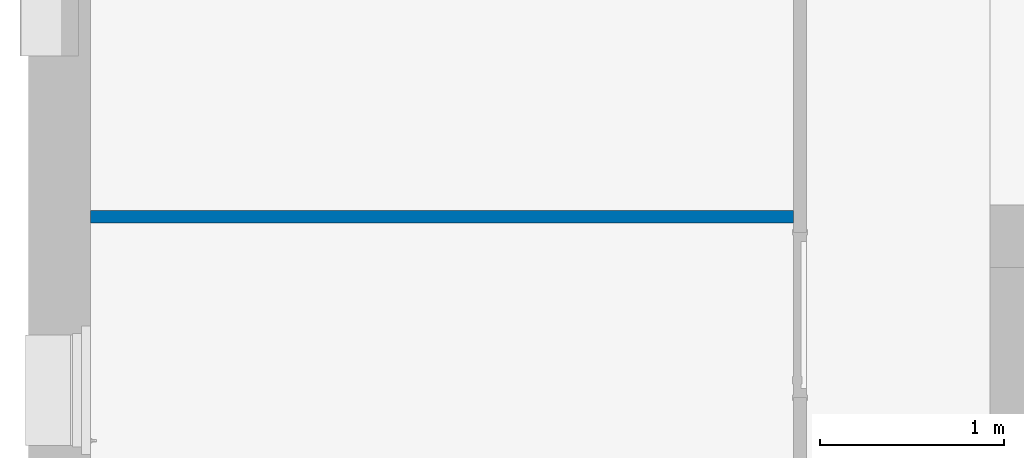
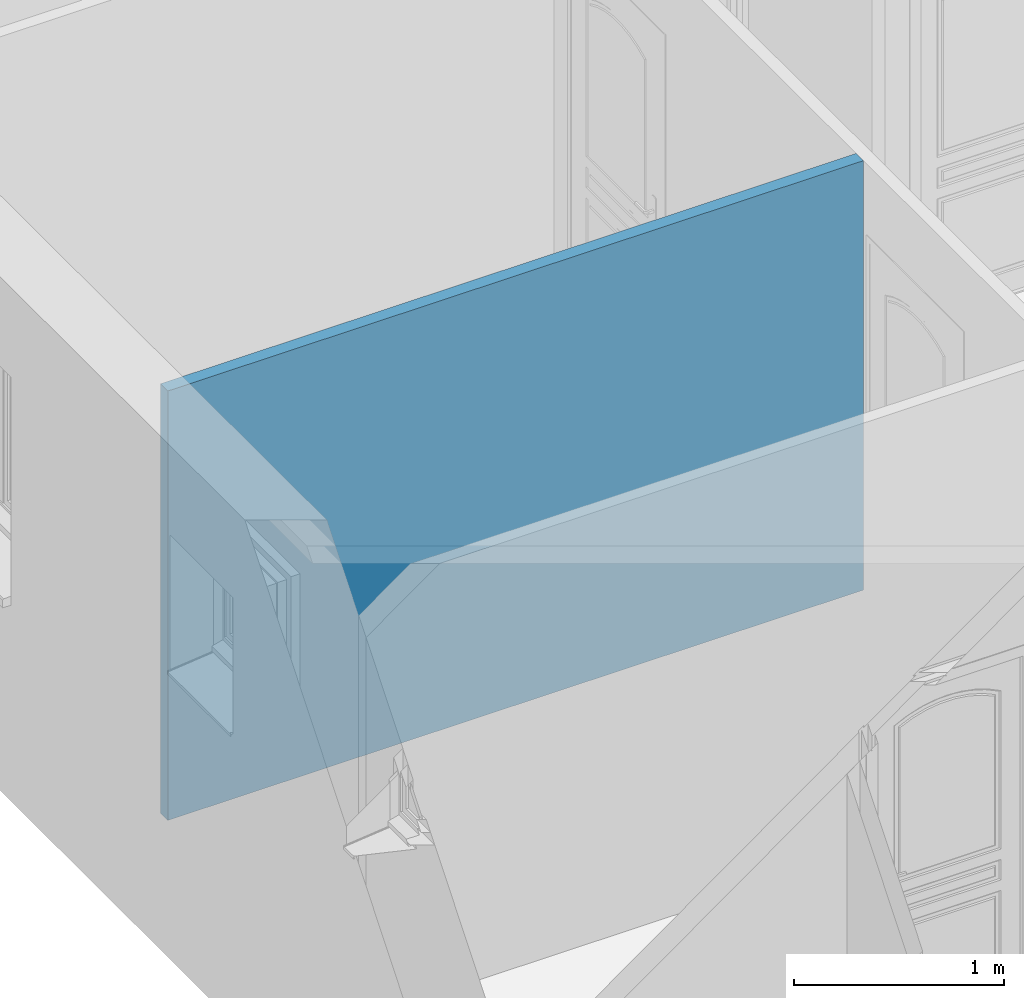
# One storey, part 9 of 23: 1 wall.
"""IFC2X3 building model written with IfcOpenShell, lengths in metres."""

import ifcopenshell
import ifcopenshell.guid

model = None  # the IFC model being written
_history = None  # IfcOwnerHistory: only IFC2X3 demands one
_inside = {}  # id of a spatial element -> (the spatial element, [elements in it])
_under = {}  # id of a project, library or spatial element -> (it, [spatial elements below it])
_declared = {}  # id of a project -> (the project, [libraries it declares])
_typed = {}  # id of a type object -> (the type object, [elements of that type])
_made_of = {}  # id of a material, layer set ... -> (it, [elements and type objects made of it])


def new_model(schema):
    """Start an empty IFC model of exactly this schema.

    Asked for "IFC4X3", IfcOpenShell would pick the latest addendum, in which some entities
    have other attributes; the version numbers below select the first issue.
    IFC2X3 requires an IfcOwnerHistory on every rooted entity: one is made here for all.
    """
    global model, _history
    if schema == "IFC4X3":
        model = ifcopenshell.file(schema_version=(4, 3, 0, 0))
    else:
        model = ifcopenshell.file(schema=schema)
    _inside.clear()
    _under.clear()
    _declared.clear()
    _typed.clear()
    _made_of.clear()
    _history = None
    if model.schema == "IFC2X3":
        org = make("IfcOrganization", Name="unknown")
        user = make(
            "IfcPersonAndOrganization",
            ThePerson=make("IfcPerson", FamilyName="unknown"),
            TheOrganization=org,
        )
        app = make(
            "IfcApplication",
            ApplicationDeveloper=org,
            Version="unknown",
            ApplicationFullName="unknown",
            ApplicationIdentifier="unknown",
        )
        _history = make(
            "IfcOwnerHistory",
            OwningUser=user,
            OwningApplication=app,
            ChangeAction="ADDED",
            CreationDate=0,
        )
    return model


def make(cls, **values):
    """One entity of the class cls with the attributes given. An attribute that is None is left unset."""
    return model.create_entity(
        cls, **{name: value for name, value in values.items() if value is not None}
    )


def entity(cls, *values):
    """Any entity or typed value of the class cls, its attributes in the order of the schema. None: left unset."""
    e = model.create_entity(cls)
    for i, value in enumerate(values):
        if value is not None:
            e[i] = value
    return e


def rooted(cls, **values):
    """An entity with a GlobalId (a new one), such as an element, a storey or a relation."""
    return make(cls, GlobalId=ifcopenshell.guid.new(), OwnerHistory=_history, **values)


def si_unit(unit_type, name, prefix=None):
    """IfcSIUnit, for example si_unit("LENGTHUNIT", "METRE", prefix="MILLI")."""
    return make("IfcSIUnit", UnitType=unit_type, Prefix=prefix, Name=name)


def converted_unit(unit_type, name, factor, base, dimensions=None, offset=None):
    """IfcConversionBasedUnit, such as the inch: factor (a typed value) times the base unit."""
    return make(
        "IfcConversionBasedUnit"
        if offset is None
        else "IfcConversionBasedUnitWithOffset",
        ConversionOffset=offset,
        Dimensions=None
        if dimensions is None
        else entity("IfcDimensionalExponents", *dimensions),
        UnitType=unit_type,
        Name=name,
        ConversionFactor=make(
            "IfcMeasureWithUnit", ValueComponent=factor, UnitComponent=base
        ),
    )


def derived_unit(unit_type, elements):
    """IfcDerivedUnit: a product of units, each with its exponent."""
    return make(
        "IfcDerivedUnit",
        Elements=[
            make("IfcDerivedUnitElement", Unit=unit, Exponent=power)
            for unit, power in elements
        ],
        UnitType=unit_type,
    )


def assignment(units):
    """IfcUnitAssignment: the units of a project."""
    return None if units is None else make("IfcUnitAssignment", Units=units)


def point(xyz):
    """IfcCartesianPoint."""
    return None if xyz is None else make("IfcCartesianPoint", Coordinates=xyz)


def direction(xyz):
    """IfcDirection."""
    return None if xyz is None else make("IfcDirection", DirectionRatios=xyz)


def frame(location, z_axis=None, x_axis=None):
    """IfcAxis2Placement3D, a coordinate frame: its origin and axes. An axis left out is left unset."""
    return make(
        "IfcAxis2Placement3D",
        Location=point(location),
        Axis=direction(z_axis),
        RefDirection=direction(x_axis),
    )


def frame_2d(location, x_axis=None):
    """IfcAxis2Placement2D, a coordinate frame in the plane: its origin and x axis."""
    return make(
        "IfcAxis2Placement2D", Location=point(location), RefDirection=direction(x_axis)
    )


def origin():
    """The frame at (0, 0, 0) with its axes left unset."""
    return frame((0.0, 0.0, 0.0))


def place(relative_to, where):
    """IfcLocalPlacement: puts the frame where relative to a parent placement (None: the world)."""
    return make(
        "IfcLocalPlacement", PlacementRelTo=relative_to, RelativePlacement=where
    )


def context(
    kind, dimensions, precision=None, world=None, true_north=None, identifier=None
):
    """IfcGeometricRepresentationContext, for example the 3D "Model" context."""
    return make(
        "IfcGeometricRepresentationContext",
        ContextIdentifier=identifier,
        ContextType=kind,
        CoordinateSpaceDimension=dimensions,
        Precision=precision,
        WorldCoordinateSystem=world,
        TrueNorth=true_north,
    )


def subcontext(parent, identifier, kind, view, scale=None):
    """IfcGeometricRepresentationSubContext, for example "Body" below "Model"."""
    return make(
        "IfcGeometricRepresentationSubContext",
        ContextIdentifier=identifier,
        ContextType=kind,
        ParentContext=parent,
        TargetScale=scale,
        TargetView=view,
    )


def project(units=None, contexts=None):
    """IfcProject with its units and contexts."""
    return rooted(
        "IfcProject",
        Name="project",
        RepresentationContexts=contexts,
        UnitsInContext=assignment(units),
    )


def spatial(cls, under=None, at=None, **own):
    """A site, building, storey or space (cls), placed at a placement, below another one or the project."""
    s = rooted(cls, ObjectPlacement=at, **own)
    if under is not None:
        _under.setdefault(under.id(), (under, []))[1].append(s)
    return s


def profile(cls, at=None, kind="AREA", **sizes):
    """A parametric profile (cls). Its sizes go by their IFC names, for example OverallWidth=200.0."""
    return make(cls, ProfileType=kind, Position=at, **sizes)


def rectangle(**sizes):
    """IfcRectangleProfileDef."""
    return profile("IfcRectangleProfileDef", **sizes)


def extrude(swept, where, along, depth):
    """IfcExtrudedAreaSolid: the profile swept, set in the frame where, extruded along a direction by depth."""
    return make(
        "IfcExtrudedAreaSolid",
        SweptArea=swept,
        Position=where,
        ExtrudedDirection=direction(along),
        Depth=depth,
    )


def shape(context_of_items, identifier, shape_type, items):
    """IfcShapeRepresentation: the items that make up one representation, for example the "Body"."""
    return make(
        "IfcShapeRepresentation",
        ContextOfItems=context_of_items,
        RepresentationIdentifier=identifier,
        RepresentationType=shape_type,
        Items=items,
    )


def material(Name=None, Category=None):
    """IfcMaterial."""
    return make("IfcMaterial", Name=Name, Category=Category)


def layer(
    of_material, thickness, ventilated=None, Name=None, Category=None, Priority=None
):
    """IfcMaterialLayer: one layer of a wall or slab, of a material (None: an air gap)."""
    return make(
        "IfcMaterialLayer",
        Material=of_material,
        LayerThickness=thickness,
        IsVentilated=ventilated,
        Name=Name,
        Category=Category,
        Priority=Priority,
    )


def layer_set(layers, Name=None):
    """IfcMaterialLayerSet."""
    return make("IfcMaterialLayerSet", MaterialLayers=layers, LayerSetName=Name)


def layer_usage(for_layer_set, set_direction, sense, offset, extent=None):
    """IfcMaterialLayerSetUsage: how a layer set lies in its element."""
    return make(
        "IfcMaterialLayerSetUsage",
        ForLayerSet=for_layer_set,
        LayerSetDirection=set_direction,
        DirectionSense=sense,
        OffsetFromReferenceLine=offset,
        ReferenceExtent=extent,
    )


def made_of(thing, what):
    """Note that an element or type object is made of a material, layer set ...; save() writes the relation."""
    if what is not None:
        _made_of.setdefault(what.id(), (what, []))[1].append(thing)
    return thing


def type_object(cls, material=None, **own):
    """A type object (cls), such as IfcWallType, which elements share."""
    return made_of(rooted(cls, **own), material)


def element(
    cls,
    number,
    at=None,
    inside=None,
    cuts=None,
    type_object=None,
    material=None,
    context=None,
    identifier="Body",
    shape_type=None,
    held_by="IfcProductDefinitionShape",
    body=None,
    shapes=None,
    **own,
):
    """One element of the class cls, such as IfcWall. Its Tag is "e" and its number.

    at: its placement. inside: the storey or other place that contains it. cuts: it is an
    opening in that element (IfcRelVoidsElement). A single representation is given by context,
    identifier, shape_type and body (its items); several are given by shapes. held_by: the class
    of the entity that holds the representations. save() writes the other relations.
    """
    e = rooted(cls, Tag="e%d" % number, ObjectPlacement=at, **own)
    if body is not None:
        shapes = [shape(context, identifier, shape_type, body)]
    if shapes is not None:
        e.Representation = make(held_by, Representations=shapes)
    if inside is not None:
        _inside.setdefault(inside.id(), (inside, []))[1].append(e)
    if cuts is not None:
        rooted(
            "IfcRelVoidsElement", RelatingBuildingElement=cuts, RelatedOpeningElement=e
        )
    if type_object is not None:
        _typed.setdefault(type_object.id(), (type_object, []))[1].append(e)
    return made_of(e, material)


def aggregate(whole, parts):
    """IfcRelAggregates: a whole, such as a stair, and the parts it consists of."""
    return rooted("IfcRelAggregates", RelatingObject=whole, RelatedObjects=parts)


def save(model, path):
    """Write the relations noted so far, then the file.

    IfcRelAggregates (storeys below a building ...), IfcRelContainedInSpatialStructure (elements
    in a storey), IfcRelDefinesByType, IfcRelAssociatesMaterial and IfcRelDeclares: one each for
    every whole, place, type object, material and project.
    """
    for whole, parts in _under.values():
        aggregate(whole, parts)
    for where, things in _inside.values():
        rooted(
            "IfcRelContainedInSpatialStructure",
            RelatedElements=things,
            RelatingStructure=where,
        )
    for kind, things in _typed.values():
        rooted("IfcRelDefinesByType", RelatedObjects=things, RelatingType=kind)
    for what, things in _made_of.values():
        rooted("IfcRelAssociatesMaterial", RelatedObjects=things, RelatingMaterial=what)
    for by, libraries in _declared.values():
        rooted("IfcRelDeclares", RelatingContext=by, RelatedDefinitions=libraries)
    model.write(path)


model = new_model("IFC2X3")

# Units and contexts
model_context = context("Model", 3, precision=1e-05, world=origin(), true_north=direction((6.12303176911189e-17, 1.0)))
body_context = subcontext(model_context, "Body", "Model", "MODEL_VIEW")
ifc_project = project(units=[si_unit("LENGTHUNIT", "METRE"), si_unit("AREAUNIT", "SQUARE_METRE"), si_unit("VOLUMEUNIT", "CUBIC_METRE"), converted_unit("PLANEANGLEUNIT", "DEGREE", entity("IfcRatioMeasure", 0.0174532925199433), si_unit("PLANEANGLEUNIT", "RADIAN"), dimensions=[0, 0, 0, 0, 0, 0, 0]), si_unit("MASSUNIT", "GRAM", prefix="KILO"), derived_unit("MASSDENSITYUNIT", [(si_unit("MASSUNIT", "GRAM", prefix="KILO"), 1), (si_unit("LENGTHUNIT", "METRE"), -3)]), si_unit("TIMEUNIT", "SECOND"), si_unit("FREQUENCYUNIT", "HERTZ"), si_unit("THERMODYNAMICTEMPERATUREUNIT", "DEGREE_CELSIUS"), derived_unit("THERMALTRANSMITTANCEUNIT", [(si_unit("MASSUNIT", "GRAM", prefix="KILO"), 1), (si_unit("THERMODYNAMICTEMPERATUREUNIT", "KELVIN"), -1), (si_unit("TIMEUNIT", "SECOND"), -3)]), derived_unit("VOLUMETRICFLOWRATEUNIT", [(si_unit("LENGTHUNIT", "METRE"), 3), (si_unit("TIMEUNIT", "SECOND"), -1)]), si_unit("ELECTRICCURRENTUNIT", "AMPERE"), si_unit("ELECTRICVOLTAGEUNIT", "VOLT"), si_unit("POWERUNIT", "WATT"), si_unit("FORCEUNIT", "NEWTON", prefix="KILO"), si_unit("ILLUMINANCEUNIT", "LUX"), si_unit("LUMINOUSFLUXUNIT", "LUMEN"), si_unit("LUMINOUSINTENSITYUNIT", "CANDELA"), derived_unit("USERDEFINED", [(si_unit("MASSUNIT", "GRAM", prefix="KILO"), -1), (si_unit("LENGTHUNIT", "METRE"), -2), (si_unit("TIMEUNIT", "SECOND"), 3), (si_unit("LUMINOUSFLUXUNIT", "LUMEN"), 1)]), derived_unit("LINEARVELOCITYUNIT", [(si_unit("LENGTHUNIT", "METRE"), 1), (si_unit("TIMEUNIT", "SECOND"), -1)]), si_unit("PRESSUREUNIT", "PASCAL"), derived_unit("USERDEFINED", [(si_unit("LENGTHUNIT", "METRE"), -2), (si_unit("MASSUNIT", "GRAM", prefix="KILO"), 1), (si_unit("TIMEUNIT", "SECOND"), -2)])], contexts=[model_context])

# Site, building, storey
site_placement = place(None, origin())
site = spatial("IfcSite", under=ifc_project, at=site_placement, Name="Default", CompositionType="ELEMENT")
building_placement = place(site_placement, origin())
building = spatial("IfcBuilding", under=site, at=building_placement, CompositionType="ELEMENT")
storey_placement = place(building_placement, origin())
storey = spatial("IfcBuildingStorey", under=building, at=storey_placement, Name="2 - Rez de Chaussée", CompositionType="ELEMENT", Elevation=-1.94916083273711e-14)

# Wall
ifc_material = material(Name="Mur par défaut")
ifc_layer = layer(ifc_material, 0.07)
ifc_layer_set = layer_set([ifc_layer], Name="Mur de base:Cloison distributive Placostil® 72/48 - 1x Placoplatre® BA 13 avec M 48 - EI30 - 33dB - max 3,45m")
ifc_layer_usage = layer_usage(ifc_layer_set, "AXIS2", "NEGATIVE", 0.035)
wall_type = type_object("IfcWallType", Name="Mur de base:Cloison distributive Placostil® 72/48 - 1x Placoplatre® BA 13 avec M 48 - EI30 - 33dB - max 3,45m", PredefinedType="STANDARD", material=ifc_layer_set)
wall_placement = place(storey_placement, frame((-9.59622246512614, 0.563055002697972, 0.0)))
element("IfcWallStandardCase", 1, at=wall_placement, inside=storey, type_object=wall_type, material=ifc_layer_usage, Name="Mur de base:Cloison distributive Placostil® 72/48 - 1x Placoplatre® BA 13 avec M 48 - EI30 - 33dB - max 3,45m", ObjectType="Mur de base:Cloison distributive Placostil® 72/48 - 1x Placoplatre® BA 13 avec M 48 - EI30 - 33dB - max 3,45m", context=body_context, shape_type="SweptSolid", body=[
    extrude(rectangle(XDim=3.83000000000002, YDim=0.0700000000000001, at=frame_2d((1.91500000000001, -3.46944695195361e-18), x_axis=(-1.0, 0.0))), origin(), (0.0, 0.0, 1.0), 2.50000000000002),
])

save(model, "model.ifc")
